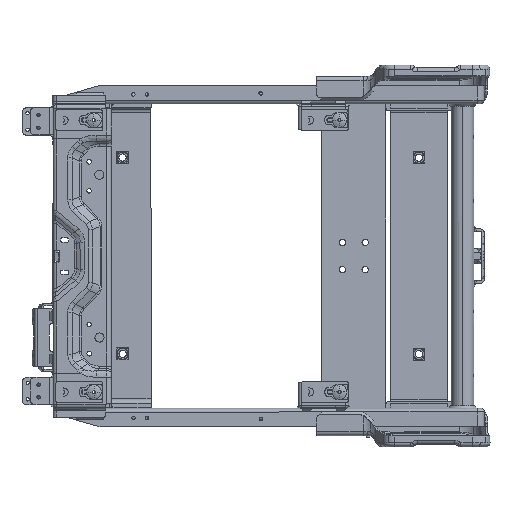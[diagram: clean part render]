
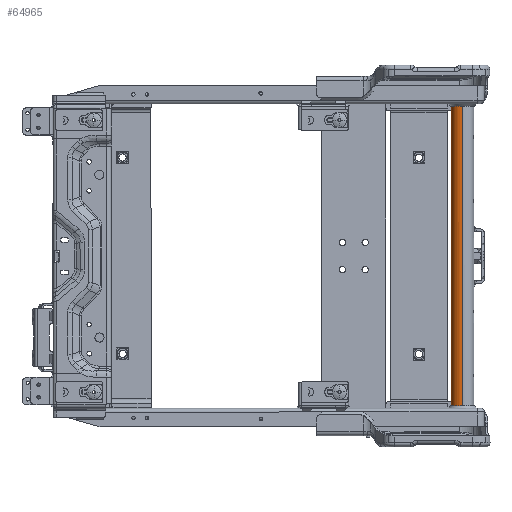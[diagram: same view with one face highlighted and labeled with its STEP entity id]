
A CAD part, top view. The second image highlights one B-rep face of the part: STEP entity #64965.
In plain terms, the highlighted cylindrical face has radius 12.5 mm (diameter 25 mm), a partial arc.
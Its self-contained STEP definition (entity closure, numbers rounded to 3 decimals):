
#64868=AXIS2_PLACEMENT_3D('Circle Axis2P3D',#64866,#64867,$) ;
#64938=AXIS2_PLACEMENT_3D('Cylinder Axis2P3D',#64935,#64936,#64937) ;
#64956=AXIS2_PLACEMENT_3D('Circle Axis2P3D',#64954,#64955,$) ;
#64866=CARTESIAN_POINT('Axis2P3D Location',(27.407,-897.802,278.689)) ;
#64870=CARTESIAN_POINT('Vertex',(27.162,-897.803,266.192)) ;
#64872=CARTESIAN_POINT('Vertex',(14.909,-897.788,278.934)) ;
#64935=CARTESIAN_POINT('Axis2P3D Location',(27.601,-724.302,278.676)) ;
#64940=CARTESIAN_POINT('Line Origine',(27.356,-724.303,266.178)) ;
#64944=CARTESIAN_POINT('Vertex',(27.55,-550.803,266.164)) ;
#64947=CARTESIAN_POINT('Line Origine',(15.103,-724.288,278.921)) ;
#64951=CARTESIAN_POINT('Vertex',(15.298,-550.788,278.907)) ;
#64954=CARTESIAN_POINT('Axis2P3D Location',(27.795,-550.802,278.662)) ;
#64867=DIRECTION('Axis2P3D Direction',(0.001,1.,0.)) ;
#64936=DIRECTION('Axis2P3D Direction',(0.001,1.,0.)) ;
#64937=DIRECTION('Axis2P3D XDirection',(-0.02,0.,-1.)) ;
#64941=DIRECTION('Vector Direction',(0.001,1.,0.)) ;
#64948=DIRECTION('Vector Direction',(0.001,1.,0.)) ;
#64955=DIRECTION('Axis2P3D Direction',(0.001,1.,0.)) ;
#64942=VECTOR('Line Direction',#64941,1.) ;
#64949=VECTOR('Line Direction',#64948,1.) ;
#64960=ORIENTED_EDGE('',*,*,#64946,.F.) ;
#64961=ORIENTED_EDGE('',*,*,#64874,.T.) ;
#64962=ORIENTED_EDGE('',*,*,#64953,.T.) ;
#64963=ORIENTED_EDGE('',*,*,#64958,.F.) ;
#64965=ADVANCED_FACE('\X2\540E6A2A7BA1\X0\',(#64964),#64939,.T.) ;
#64869=CIRCLE('generated circle',#64868,12.5) ;
#64957=CIRCLE('generated circle',#64956,12.5) ;
#64939=CYLINDRICAL_SURFACE('generated cylinder',#64938,12.5) ;
#64874=EDGE_CURVE('',#64871,#64873,#64869,.T.) ;
#64946=EDGE_CURVE('',#64871,#64945,#64943,.T.) ;
#64953=EDGE_CURVE('',#64873,#64952,#64950,.T.) ;
#64958=EDGE_CURVE('',#64945,#64952,#64957,.T.) ;
#64959=EDGE_LOOP('',(#64960,#64961,#64962,#64963)) ;
#64964=FACE_OUTER_BOUND('',#64959,.T.) ;
#64943=LINE('Line',#64940,#64942) ;
#64950=LINE('Line',#64947,#64949) ;
#64871=VERTEX_POINT('',#64870) ;
#64873=VERTEX_POINT('',#64872) ;
#64945=VERTEX_POINT('',#64944) ;
#64952=VERTEX_POINT('',#64951) ;
